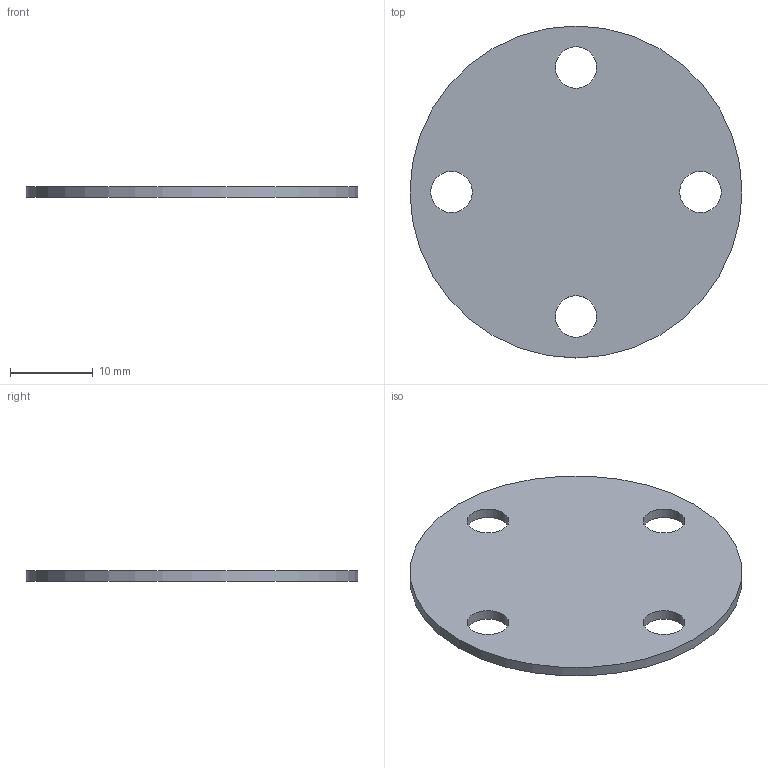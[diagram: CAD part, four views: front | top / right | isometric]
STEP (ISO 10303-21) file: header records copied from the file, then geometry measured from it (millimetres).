
FILE_DESCRIPTION(('Open CASCADE Model'),'2;1');
FILE_NAME('Open CASCADE Shape Model','2026-10-26T07:39:23',('Author'),( 'Open CASCADE'),'Open CASCADE STEP processor 7.9','Open CASCADE 7.9' ,'Unknown');
FILE_SCHEMA(('AUTOMOTIVE_DESIGN { 1 0 10303 214 1 1 1 1 }'));
Length unit declared in the file: millimetre
Products named in the file (1): Open CASCADE STEP translator 7.9 1
Bounding box: 40 x 40 x 1.25 mm (x, y, z)
Volume: 1472.6 mm3; surface area: 2591.8 mm2
Topology: 1 solids, 1 shells, 7 faces, 15 edges, 10 vertices
Faces by surface type: cylinder 5, plane 2
Full cylindrical faces by diameter (mm): 5 x4, 40 x1
Entity records: 420 total; most frequent: DIRECTION 71, CARTESIAN_POINT 63, ORIENTED_EDGE 30, PCURVE 30, DEFINITIONAL_REPRESENTATION 30, LINE 25, VECTOR 25, CIRCLE 20
